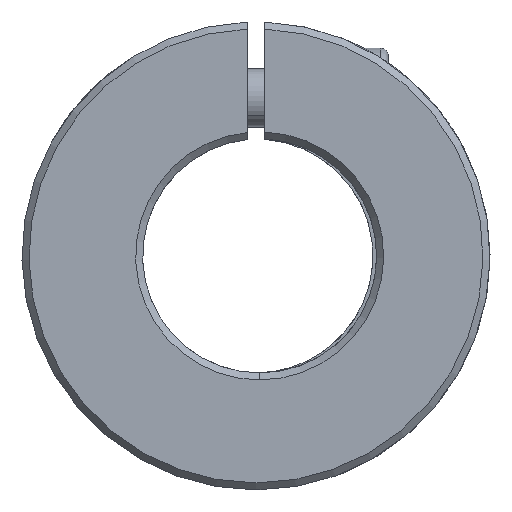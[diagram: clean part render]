
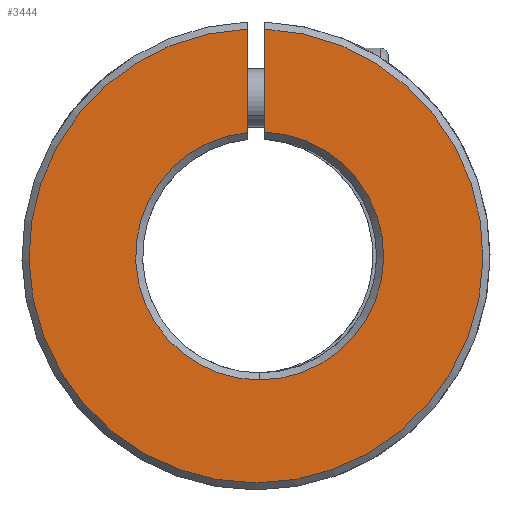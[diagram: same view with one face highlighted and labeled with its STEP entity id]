
A CAD part, front view. The second image highlights one B-rep face of the part: STEP entity #3444.
In plain terms, the highlighted planar face has unit normal (0, -1, 0).
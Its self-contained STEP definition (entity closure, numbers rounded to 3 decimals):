
#258 = LINE ( 'NONE', #2159, #4855 ) ;
#417 = LINE ( 'NONE', #5829, #5137 ) ;
#584 = DIRECTION ( 'NONE',  ( 0., -1., 0. ) ) ;
#603 = DIRECTION ( 'NONE',  ( 0., 1., 0. ) ) ;
#660 = DIRECTION ( 'NONE',  ( 0., 0., 1. ) ) ;
#901 = AXIS2_PLACEMENT_3D ( 'NONE', #2908, #603, #660 ) ;
#960 = ORIENTED_EDGE ( 'NONE', *, *, #4929, .T. ) ;
#1227 = EDGE_LOOP ( 'NONE', ( #960, #5638, #4018, #3720, #4987 ) ) ;
#1275 = CIRCLE ( 'NONE', #901, 10.6 ) ;
#1319 = CARTESIAN_POINT ( 'NONE',  ( 0.314, -30., 0. ) ) ;
#1415 = EDGE_CURVE ( 'NONE', #2147, #4006, #1275, .T. ) ;
#1481 = CIRCLE ( 'NONE', #4597, 19.4 ) ;
#2070 = PLANE ( 'NONE',  #2883 ) ;
#2147 = VERTEX_POINT ( 'NONE', #5582 ) ;
#2159 = CARTESIAN_POINT ( 'NONE',  ( 0.75, -30., 0. ) ) ;
#2318 = DIRECTION ( 'NONE',  ( 0., 0., 1. ) ) ;
#2391 = VERTEX_POINT ( 'NONE', #3709 ) ;
#2549 = VERTEX_POINT ( 'NONE', #5173 ) ;
#2808 = EDGE_CURVE ( 'NONE', #2549, #2147, #5624, .T. ) ;
#2883 = AXIS2_PLACEMENT_3D ( 'NONE', #4864, #4423, #3080 ) ;
#2908 = CARTESIAN_POINT ( 'NONE',  ( 0.314, -30., 0. ) ) ;
#3022 = FACE_OUTER_BOUND ( 'NONE', #1227, .T. ) ;
#3080 = DIRECTION ( 'NONE',  ( 0., 0., 1. ) ) ;
#3137 = DIRECTION ( 'NONE',  ( 0., 0., 1. ) ) ;
#3275 = VERTEX_POINT ( 'NONE', #3458 ) ;
#3368 = CARTESIAN_POINT ( 'NONE',  ( 0., -30., 0. ) ) ;
#3444 = ADVANCED_FACE ( 'NONE', ( #3022 ), #2070, .F. ) ;
#3457 = CARTESIAN_POINT ( 'NONE',  ( -0.75, -30., 10.546 ) ) ;
#3458 = CARTESIAN_POINT ( 'NONE',  ( 0.75, -30., 19.385 ) ) ;
#3709 = CARTESIAN_POINT ( 'NONE',  ( -0.75, -30., 19.385 ) ) ;
#3720 = ORIENTED_EDGE ( 'NONE', *, *, #4741, .T. ) ;
#3849 = EDGE_CURVE ( 'NONE', #2391, #3275, #1481, .T. ) ;
#3869 = DIRECTION ( 'NONE',  ( 0., 0., -1. ) ) ;
#4006 = VERTEX_POINT ( 'NONE', #3457 ) ;
#4018 = ORIENTED_EDGE ( 'NONE', *, *, #1415, .T. ) ;
#4040 = DIRECTION ( 'NONE',  ( 0., 1., 0. ) ) ;
#4423 = DIRECTION ( 'NONE',  ( 0., 1., 0. ) ) ;
#4588 = AXIS2_PLACEMENT_3D ( 'NONE', #1319, #4040, #2318 ) ;
#4597 = AXIS2_PLACEMENT_3D ( 'NONE', #3368, #584, #4697 ) ;
#4697 = DIRECTION ( 'NONE',  ( 0., 0., 1. ) ) ;
#4741 = EDGE_CURVE ( 'NONE', #4006, #2391, #417, .T. ) ;
#4855 = VECTOR ( 'NONE', #3869, 1000. ) ;
#4864 = CARTESIAN_POINT ( 'NONE',  ( 0., -30., 0. ) ) ;
#4929 = EDGE_CURVE ( 'NONE', #3275, #2549, #258, .T. ) ;
#4987 = ORIENTED_EDGE ( 'NONE', *, *, #3849, .T. ) ;
#5137 = VECTOR ( 'NONE', #3137, 1000. ) ;
#5173 = CARTESIAN_POINT ( 'NONE',  ( 0.75, -30., 10.591 ) ) ;
#5582 = CARTESIAN_POINT ( 'NONE',  ( 0.314, -30., -10.6 ) ) ;
#5624 = CIRCLE ( 'NONE', #4588, 10.6 ) ;
#5638 = ORIENTED_EDGE ( 'NONE', *, *, #2808, .T. ) ;
#5829 = CARTESIAN_POINT ( 'NONE',  ( -0.75, -30., 0. ) ) ;
